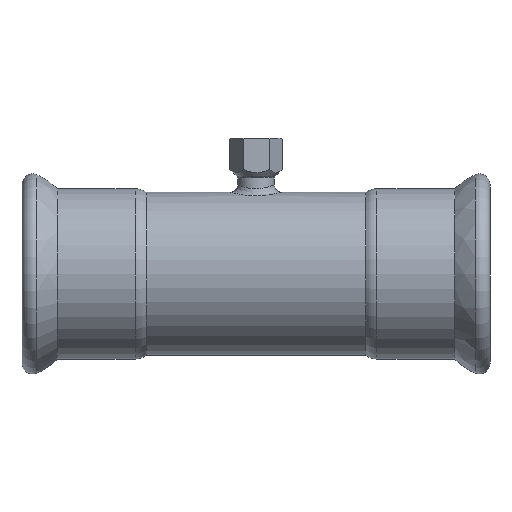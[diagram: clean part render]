
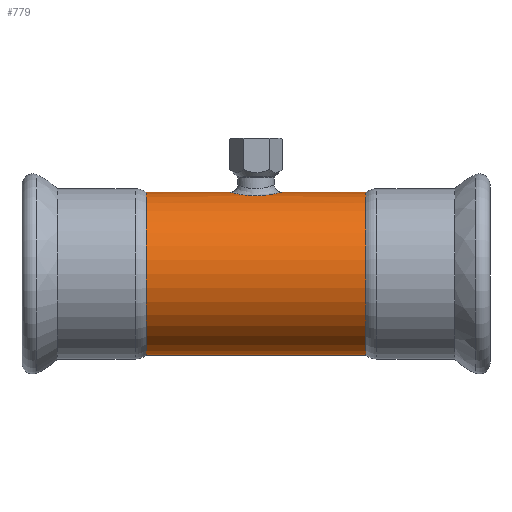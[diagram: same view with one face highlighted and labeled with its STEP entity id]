
A CAD part, front view. The second image highlights one B-rep face of the part: STEP entity #779.
In plain terms, the highlighted cylindrical face has radius 54 mm (diameter 108 mm), a full revolution.
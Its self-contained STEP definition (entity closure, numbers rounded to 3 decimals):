
#16=B_SPLINE_CURVE_WITH_KNOTS($,3,(#1697,#1698,#1699,#1700,#1701,#1702,
#1703,#1704,#1705,#1706,#1707,#1708,#1709,#1710,#1711,#1712,#1713,#1714,
#1715,#1716,#1717),.UNSPECIFIED.,.T.,.F.,(4,3,1,1,1,1,1,1,1,1,1,1,1,1,1,
1,4),(-7.259,-7.259,-6.74,-6.222,
-5.703,-5.185,-4.666,-4.148,
-3.456,-3.111,-2.765,-2.074,
-1.555,-1.037,-0.518,-0.259,
0.),.UNSPECIFIED.);
#121=FACE_BOUND($,#271,.T.);
#122=FACE_BOUND($,#272,.T.);
#156=CYLINDRICAL_SURFACE($,#880,54.);
#199=FACE_OUTER_BOUND($,#270,.T.);
#270=EDGE_LOOP($,(#698));
#271=EDGE_LOOP($,(#699));
#272=EDGE_LOOP($,(#700));
#373=CIRCLE($,#881,54.);
#374=CIRCLE($,#882,54.);
#443=VERTEX_POINT($,#1673);
#445=VERTEX_POINT($,#1720);
#446=VERTEX_POINT($,#1722);
#538=EDGE_CURVE($,#443,#443,#16,.T.);
#539=EDGE_CURVE($,#445,#445,#373,.T.);
#540=EDGE_CURVE($,#446,#446,#374,.T.);
#698=ORIENTED_EDGE($,*,*,#539,.T.);
#699=ORIENTED_EDGE($,*,*,#540,.F.);
#700=ORIENTED_EDGE($,*,*,#538,.F.);
#779=ADVANCED_FACE($,(#199,#121,#122),#156,.T.);
#880=AXIS2_PLACEMENT_3D($,#1719,#1084,#1085);
#881=AXIS2_PLACEMENT_3D($,#1721,#1086,#1087);
#882=AXIS2_PLACEMENT_3D($,#1723,#1088,#1089);
#1084=DIRECTION('center_axis',(1.,0.,0.));
#1085=DIRECTION('ref_axis',(0.,1.,0.));
#1086=DIRECTION('center_axis',(1.,0.,0.));
#1087=DIRECTION('ref_axis',(0.,1.,0.));
#1088=DIRECTION('center_axis',(1.,0.,0.));
#1089=DIRECTION('ref_axis',(0.,1.,0.));
#1673=CARTESIAN_POINT('',(-155.,15.559,51.71));
#1697=CARTESIAN_POINT('Ctrl Pts',(-155.,15.561,51.709));
#1698=CARTESIAN_POINT('Ctrl Pts',(-155.,15.561,51.709));
#1699=CARTESIAN_POINT('Ctrl Pts',(-155.001,15.561,51.709));
#1700=CARTESIAN_POINT('Ctrl Pts',(-155.001,15.561,51.709));
#1701=CARTESIAN_POINT('Ctrl Pts',(-157.543,15.561,51.709));
#1702=CARTESIAN_POINT('Ctrl Pts',(-162.638,14.489,52.049));
#1703=CARTESIAN_POINT('Ctrl Pts',(-168.714,10.058,53.156));
#1704=CARTESIAN_POINT('Ctrl Pts',(-172.134,3.633,54.034));
#1705=CARTESIAN_POINT('Ctrl Pts',(-172.149,-3.593,54.033));
#1706=CARTESIAN_POINT('Ctrl Pts',(-168.73,-10.029,53.165));
#1707=CARTESIAN_POINT('Ctrl Pts',(-162.008,-14.978,51.919));
#1708=CARTESIAN_POINT('Ctrl Pts',(-154.074,-16.101,51.539));
#1709=CARTESIAN_POINT('Ctrl Pts',(-147.496,-14.216,52.111));
#1710=CARTESIAN_POINT('Ctrl Pts',(-141.858,-10.708,53.003));
#1711=CARTESIAN_POINT('Ctrl Pts',(-137.856,-4.426,54.04));
#1712=CARTESIAN_POINT('Ctrl Pts',(-137.864,3.607,54.033));
#1713=CARTESIAN_POINT('Ctrl Pts',(-141.266,10.036,53.159));
#1714=CARTESIAN_POINT('Ctrl Pts',(-146.337,13.741,52.237));
#1715=CARTESIAN_POINT('Ctrl Pts',(-151.156,15.292,51.791));
#1716=CARTESIAN_POINT('Ctrl Pts',(-153.729,15.56,51.709));
#1717=CARTESIAN_POINT('Ctrl Pts',(-155.,15.561,51.709));
#1719=CARTESIAN_POINT('Origin',(-218.9,0.,0.));
#1720=CARTESIAN_POINT('',(-227.8,54.,0.));
#1721=CARTESIAN_POINT('Origin',(-227.8,0.,0.));
#1722=CARTESIAN_POINT('',(-82.2,54.,0.));
#1723=CARTESIAN_POINT('Origin',(-82.2,0.,0.));
